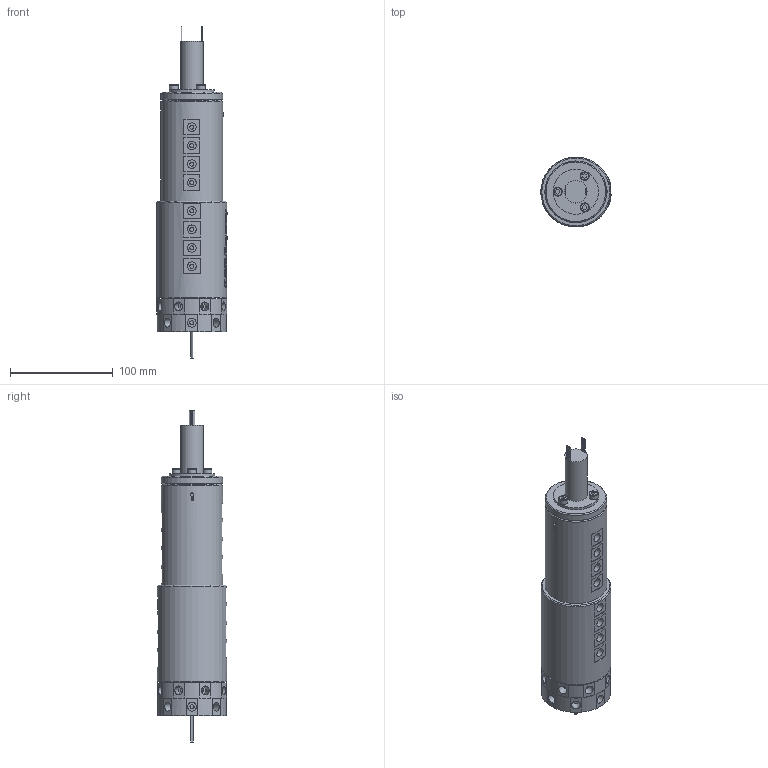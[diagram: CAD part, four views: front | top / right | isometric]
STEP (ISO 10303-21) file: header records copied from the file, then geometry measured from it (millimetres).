
FILE_DESCRIPTION(/* description */ (''),/* implementation_level */ '2;1');
FILE_NAME(/* name */ 'YQ1801-32M.stp',/* time_stamp */ '2025-02-15T15:39:59+08:00',/* author */ (''),/* organization */ (''),/* preprocessor_version */ 'ST-DEVELOPER v16.7',/* originating_system */ 'SIEMENS PLM Software NX 12.0',/* authorisation */ '');
FILE_SCHEMA (('AUTOMOTIVE_DESIGN { 1 0 10303 214 3 1 1 1 }'));
Products named in the file (1): HX0527348ECCpcm4
Bounding box: 68.42 x 68 x 323.3 mm (x, y, z)
Volume: 740126.1 mm3; surface area: 95006.2 mm2
Topology: 1 solids, 12 shells, 1545 faces, 3993 edges, 2703 vertices
Faces by surface type: extrusion 671, plane 625, cylinder 201, bspline 33, cone 12, torus 3
Full cylindrical faces by diameter (mm): 0.8 x16, 3.4 x10, 4 x56, 4.1 x16, 4.2 x16, 5 x3, 5.5 x3, 7.8 x1, 8 x1, 8.5 x35, 22 x1, 44 x1, 47 x1, 60 x2, 68 x2
Entity records: 54380 total; most frequent: CARTESIAN_POINT 22446, ORIENTED_EDGE 7350, DIRECTION 4140, EDGE_CURVE 3675, B_SPLINE_CURVE_WITH_KNOTS 3112, VERTEX_POINT 2585, EDGE_LOOP 1968, ADVANCED_FACE 1542
